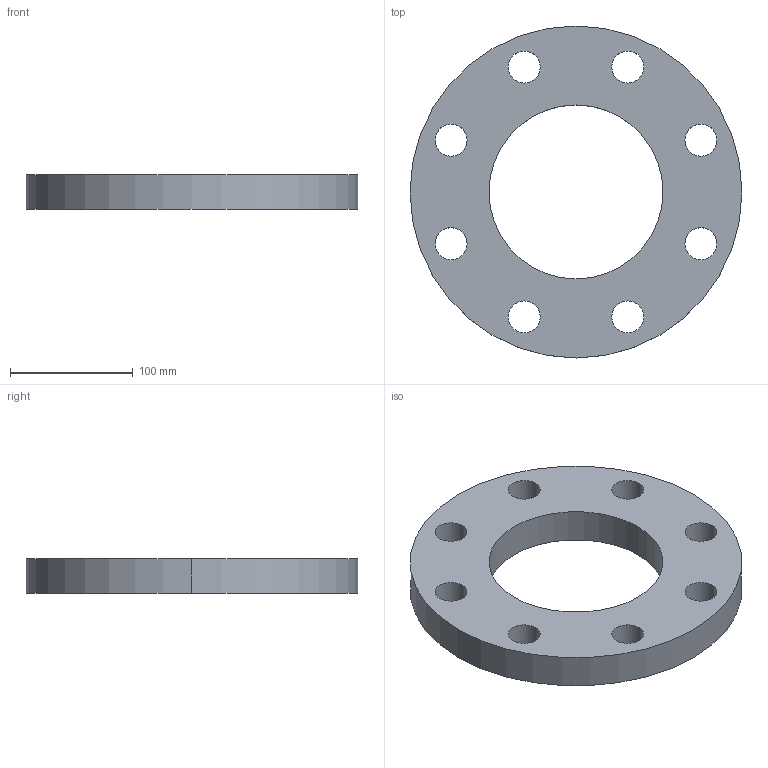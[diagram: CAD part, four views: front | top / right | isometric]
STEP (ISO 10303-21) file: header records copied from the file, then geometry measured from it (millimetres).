
FILE_DESCRIPTION (( 'STEP AP214' ), '1' );
FILE_NAME ('PN40 DN125 Type 01 - Type A Face.STEP', '2019-01-02T19:40:51', ( '' ), ( '' ), 'SwSTEP 2.0', 'SolidWorks 2019', '' );
FILE_SCHEMA (( 'AUTOMOTIVE_DESIGN' ));
Length unit declared in the file: millimetre
Products named in the file (1): PN40 DN125 Type 01 - Type A Face
Bounding box: 270 x 270 x 28 mm (x, y, z)
Volume: 1043914.3 mm3; surface area: 129059.4 mm2
Topology: 1 solids, 1 shells, 22 faces, 60 edges, 40 vertices
Faces by surface type: cylinder 20, plane 2
Entity records: 794 total; most frequent: DIRECTION 146, CARTESIAN_POINT 123, ORIENTED_EDGE 120, AXIS2_PLACEMENT_3D 63, EDGE_CURVE 60, CIRCLE 40, EDGE_LOOP 40, VERTEX_POINT 40
